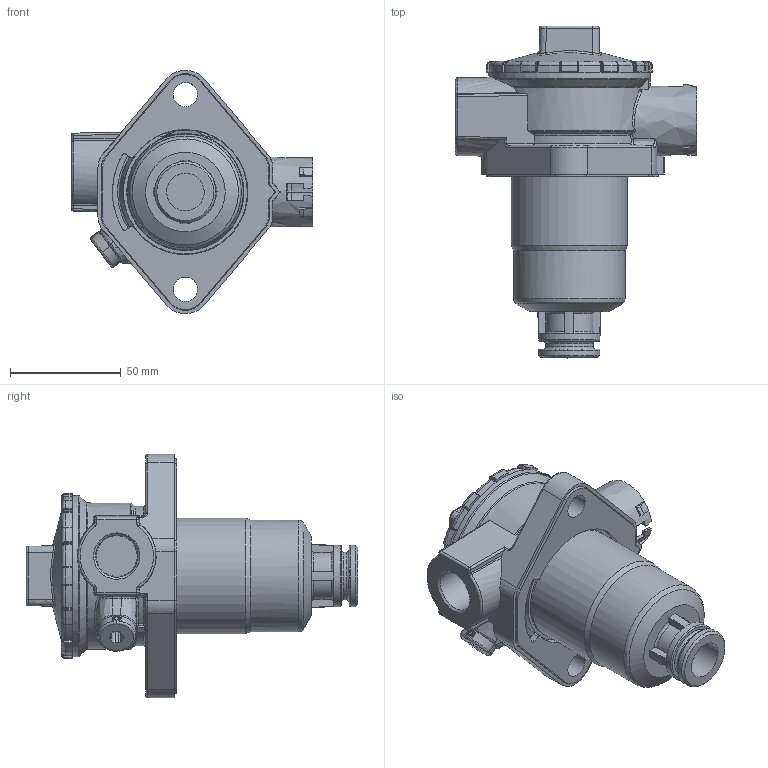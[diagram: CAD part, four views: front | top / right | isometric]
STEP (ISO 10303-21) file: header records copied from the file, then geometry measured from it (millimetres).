
FILE_DESCRIPTION((''),'2;1');
FILE_NAME('U:\Users\t.schleuter\E_043-166.stp','2013-05-14T10:09:54', ('User'),('SDRC'),'I-DEAS Master Series 9','UNIX','Yes');
FILE_SCHEMA(('AUTOMOTIVE_DESIGN { 1 0 10303 214 1 1 1 1 }'));
Length unit declared in the file: millimetre
Products named in the file (1): 14993500(237257)
Bounding box: 109 x 150 x 110 mm (x, y, z)
Volume: 374780.3 mm3; surface area: 56736.9 mm2
Topology: 1 solids, 2 shells, 835 faces, 2136 edges, 1297 vertices
Faces by surface type: bspline 835
Entity records: 30985 total; most frequent: CARTESIAN_POINT 19316, ORIENTED_EDGE 4156, EDGE_CURVE 2078, VERTEX_POINT 1270, B_SPLINE_CURVE_WITH_KNOTS 1095, EDGE_LOOP 862, FACE_OUTER_BOUND 835, ADVANCED_FACE 835
